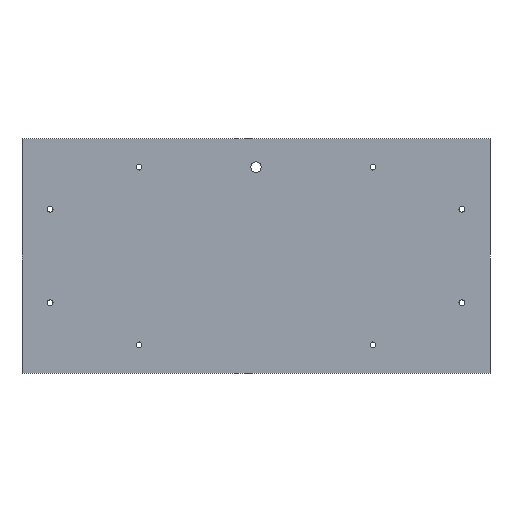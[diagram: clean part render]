
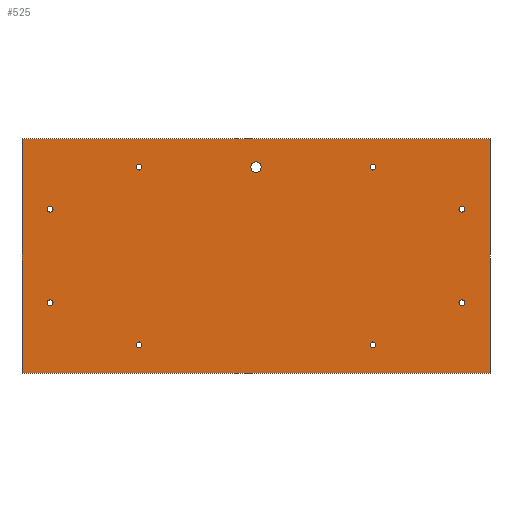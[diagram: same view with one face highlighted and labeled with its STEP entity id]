
A CAD part, front view. The second image highlights one B-rep face of the part: STEP entity #525.
In plain terms, the highlighted planar face has unit normal (0, -1, 0).
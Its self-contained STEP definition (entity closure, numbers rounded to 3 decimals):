
#7 = EDGE_LOOP ( 'NONE', ( #532 ) ) ;
#9 = EDGE_CURVE ( 'NONE', #378, #378, #66, .T. ) ;
#14 = VERTEX_POINT ( 'NONE', #225 ) ;
#20 = FACE_BOUND ( 'NONE', #349, .T. ) ;
#21 = DIRECTION ( 'NONE',  ( 0., 0., 1. ) ) ;
#23 = AXIS2_PLACEMENT_3D ( 'NONE', #402, #68, #353 ) ;
#34 = EDGE_LOOP ( 'NONE', ( #164 ) ) ;
#37 = VECTOR ( 'NONE', #117, 1000. ) ;
#39 = CARTESIAN_POINT ( 'NONE',  ( -176., 0., -37.5 ) ) ;
#45 = DIRECTION ( 'NONE',  ( 0., 0., 1. ) ) ;
#54 = EDGE_CURVE ( 'NONE', #129, #129, #239, .T. ) ;
#66 = CIRCLE ( 'NONE', #104, 2.5 ) ;
#68 = DIRECTION ( 'NONE',  ( 0., 1., 0. ) ) ;
#72 = EDGE_CURVE ( 'NONE', #165, #165, #368, .T. ) ;
#73 = DIRECTION ( 'NONE',  ( 0., 1., 0. ) ) ;
#75 = FACE_BOUND ( 'NONE', #34, .T. ) ;
#87 = CARTESIAN_POINT ( 'NONE',  ( 176., 0., 42.5 ) ) ;
#92 = AXIS2_PLACEMENT_3D ( 'NONE', #364, #490, #116 ) ;
#104 = AXIS2_PLACEMENT_3D ( 'NONE', #507, #303, #426 ) ;
#109 = CARTESIAN_POINT ( 'NONE',  ( -176., 0., -40. ) ) ;
#110 = VERTEX_POINT ( 'NONE', #348 ) ;
#116 = DIRECTION ( 'NONE',  ( 0., 0., 1. ) ) ;
#117 = DIRECTION ( 'NONE',  ( -1., 0., 0. ) ) ;
#118 = CARTESIAN_POINT ( 'NONE',  ( -176., 0., 42.5 ) ) ;
#119 = EDGE_CURVE ( 'NONE', #14, #110, #309, .T. ) ;
#129 = VERTEX_POINT ( 'NONE', #417 ) ;
#134 = DIRECTION ( 'NONE',  ( 1., 0., 0. ) ) ;
#140 = CARTESIAN_POINT ( 'NONE',  ( 0., 0., 76. ) ) ;
#141 = AXIS2_PLACEMENT_3D ( 'NONE', #109, #146, #21 ) ;
#143 = ORIENTED_EDGE ( 'NONE', *, *, #219, .T. ) ;
#144 = AXIS2_PLACEMENT_3D ( 'NONE', #189, #73, #362 ) ;
#146 = DIRECTION ( 'NONE',  ( 0., 1., 0. ) ) ;
#149 = CARTESIAN_POINT ( 'NONE',  ( 0., 0., 0. ) ) ;
#150 = CIRCLE ( 'NONE', #92, 2.5 ) ;
#151 = DIRECTION ( 'NONE',  ( 0., 0., 1. ) ) ;
#159 = FACE_BOUND ( 'NONE', #352, .T. ) ;
#164 = ORIENTED_EDGE ( 'NONE', *, *, #228, .T. ) ;
#165 = VERTEX_POINT ( 'NONE', #376 ) ;
#168 = AXIS2_PLACEMENT_3D ( 'NONE', #180, #508, #45 ) ;
#175 = CIRCLE ( 'NONE', #304, 2.5 ) ;
#180 = CARTESIAN_POINT ( 'NONE',  ( -100., 0., 76. ) ) ;
#189 = CARTESIAN_POINT ( 'NONE',  ( 176., 0., -40. ) ) ;
#194 = EDGE_CURVE ( 'NONE', #501, #501, #472, .T. ) ;
#198 = CARTESIAN_POINT ( 'NONE',  ( 176., 0., 40. ) ) ;
#204 = CARTESIAN_POINT ( 'NONE',  ( 200., 0., -100. ) ) ;
#205 = CIRCLE ( 'NONE', #242, 2.5 ) ;
#208 = CARTESIAN_POINT ( 'NONE',  ( 100., 0., 78.5 ) ) ;
#211 = EDGE_CURVE ( 'NONE', #464, #464, #175, .T. ) ;
#218 = EDGE_LOOP ( 'NONE', ( #381 ) ) ;
#219 = EDGE_CURVE ( 'NONE', #299, #299, #334, .T. ) ;
#225 = CARTESIAN_POINT ( 'NONE',  ( -200., 0., 100. ) ) ;
#228 = EDGE_CURVE ( 'NONE', #422, #422, #205, .T. ) ;
#235 = EDGE_CURVE ( 'NONE', #110, #489, #246, .T. ) ;
#237 = LINE ( 'NONE', #285, #357 ) ;
#239 = CIRCLE ( 'NONE', #168, 2.5 ) ;
#240 = ORIENTED_EDGE ( 'NONE', *, *, #119, .F. ) ;
#242 = AXIS2_PLACEMENT_3D ( 'NONE', #198, #311, #151 ) ;
#246 = LINE ( 'NONE', #365, #538 ) ;
#250 = EDGE_CURVE ( 'NONE', #539, #539, #505, .T. ) ;
#256 = EDGE_LOOP ( 'NONE', ( #314, #240, #513, #267 ) ) ;
#261 = CARTESIAN_POINT ( 'NONE',  ( 100., 0., -73.5 ) ) ;
#267 = ORIENTED_EDGE ( 'NONE', *, *, #351, .F. ) ;
#279 = FACE_OUTER_BOUND ( 'NONE', #256, .T. ) ;
#285 = CARTESIAN_POINT ( 'NONE',  ( -200., 0., 100. ) ) ;
#290 = LINE ( 'NONE', #495, #37 ) ;
#299 = VERTEX_POINT ( 'NONE', #208 ) ;
#300 = EDGE_LOOP ( 'NONE', ( #389 ) ) ;
#303 = DIRECTION ( 'NONE',  ( 0., 1., 0. ) ) ;
#304 = AXIS2_PLACEMENT_3D ( 'NONE', #454, #396, #313 ) ;
#306 = DIRECTION ( 'NONE',  ( 0., 0., 1. ) ) ;
#309 = LINE ( 'NONE', #340, #432 ) ;
#311 = DIRECTION ( 'NONE',  ( 0., 1., 0. ) ) ;
#313 = DIRECTION ( 'NONE',  ( 0., 0., 1. ) ) ;
#314 = ORIENTED_EDGE ( 'NONE', *, *, #235, .F. ) ;
#319 = ORIENTED_EDGE ( 'NONE', *, *, #250, .T. ) ;
#324 = FACE_BOUND ( 'NONE', #300, .T. ) ;
#326 = ORIENTED_EDGE ( 'NONE', *, *, #72, .T. ) ;
#334 = CIRCLE ( 'NONE', #23, 2.5 ) ;
#335 = CARTESIAN_POINT ( 'NONE',  ( -100., 0., -73.5 ) ) ;
#336 = ORIENTED_EDGE ( 'NONE', *, *, #194, .T. ) ;
#340 = CARTESIAN_POINT ( 'NONE',  ( -200., 0., 100. ) ) ;
#348 = CARTESIAN_POINT ( 'NONE',  ( 200., 0., 100. ) ) ;
#349 = EDGE_LOOP ( 'NONE', ( #336 ) ) ;
#351 = EDGE_CURVE ( 'NONE', #489, #529, #290, .T. ) ;
#352 = EDGE_LOOP ( 'NONE', ( #326 ) ) ;
#353 = DIRECTION ( 'NONE',  ( 0., 0., 1. ) ) ;
#357 = VECTOR ( 'NONE', #361, 1000. ) ;
#361 = DIRECTION ( 'NONE',  ( 0., 0., 1. ) ) ;
#362 = DIRECTION ( 'NONE',  ( 0., 0., 1. ) ) ;
#364 = CARTESIAN_POINT ( 'NONE',  ( -100., 0., -76. ) ) ;
#365 = CARTESIAN_POINT ( 'NONE',  ( 200., 0., 100. ) ) ;
#368 = CIRCLE ( 'NONE', #416, 4.5 ) ;
#369 = FACE_BOUND ( 'NONE', #218, .T. ) ;
#376 = CARTESIAN_POINT ( 'NONE',  ( 0., 0., 80.5 ) ) ;
#378 = VERTEX_POINT ( 'NONE', #261 ) ;
#380 = VERTEX_POINT ( 'NONE', #335 ) ;
#381 = ORIENTED_EDGE ( 'NONE', *, *, #9, .T. ) ;
#389 = ORIENTED_EDGE ( 'NONE', *, *, #54, .T. ) ;
#396 = DIRECTION ( 'NONE',  ( 0., 1., 0. ) ) ;
#398 = PLANE ( 'NONE',  #449 ) ;
#402 = CARTESIAN_POINT ( 'NONE',  ( 100., 0., 76. ) ) ;
#409 = FACE_BOUND ( 'NONE', #492, .T. ) ;
#416 = AXIS2_PLACEMENT_3D ( 'NONE', #140, #467, #306 ) ;
#417 = CARTESIAN_POINT ( 'NONE',  ( -100., 0., 78.5 ) ) ;
#421 = CARTESIAN_POINT ( 'NONE',  ( 176., 0., -37.5 ) ) ;
#422 = VERTEX_POINT ( 'NONE', #87 ) ;
#423 = EDGE_CURVE ( 'NONE', #380, #380, #150, .T. ) ;
#426 = DIRECTION ( 'NONE',  ( 0., 0., 1. ) ) ;
#428 = EDGE_LOOP ( 'NONE', ( #319 ) ) ;
#432 = VECTOR ( 'NONE', #134, 1000. ) ;
#444 = CARTESIAN_POINT ( 'NONE',  ( -200., 0., -100. ) ) ;
#449 = AXIS2_PLACEMENT_3D ( 'NONE', #149, #478, #481 ) ;
#454 = CARTESIAN_POINT ( 'NONE',  ( -176., 0., 40. ) ) ;
#456 = FACE_BOUND ( 'NONE', #474, .T. ) ;
#464 = VERTEX_POINT ( 'NONE', #118 ) ;
#467 = DIRECTION ( 'NONE',  ( 0., 1., 0. ) ) ;
#472 = CIRCLE ( 'NONE', #141, 2.5 ) ;
#474 = EDGE_LOOP ( 'NONE', ( #521 ) ) ;
#478 = DIRECTION ( 'NONE',  ( 0., -1., 0. ) ) ;
#481 = DIRECTION ( 'NONE',  ( 0., 0., -1. ) ) ;
#489 = VERTEX_POINT ( 'NONE', #204 ) ;
#490 = DIRECTION ( 'NONE',  ( 0., 1., 0. ) ) ;
#492 = EDGE_LOOP ( 'NONE', ( #143 ) ) ;
#495 = CARTESIAN_POINT ( 'NONE',  ( -200., 0., -100. ) ) ;
#501 = VERTEX_POINT ( 'NONE', #39 ) ;
#502 = EDGE_CURVE ( 'NONE', #529, #14, #237, .T. ) ;
#505 = CIRCLE ( 'NONE', #144, 2.5 ) ;
#507 = CARTESIAN_POINT ( 'NONE',  ( 100., 0., -76. ) ) ;
#508 = DIRECTION ( 'NONE',  ( 0., 1., 0. ) ) ;
#513 = ORIENTED_EDGE ( 'NONE', *, *, #502, .F. ) ;
#515 = FACE_BOUND ( 'NONE', #428, .T. ) ;
#517 = DIRECTION ( 'NONE',  ( 0., 0., -1. ) ) ;
#521 = ORIENTED_EDGE ( 'NONE', *, *, #211, .T. ) ;
#525 = ADVANCED_FACE ( 'NONE', ( #159, #369, #409, #324, #456, #515, #20, #75, #530, #279 ), #398, .T. ) ;
#529 = VERTEX_POINT ( 'NONE', #444 ) ;
#530 = FACE_BOUND ( 'NONE', #7, .T. ) ;
#532 = ORIENTED_EDGE ( 'NONE', *, *, #423, .T. ) ;
#538 = VECTOR ( 'NONE', #517, 1000. ) ;
#539 = VERTEX_POINT ( 'NONE', #421 ) ;
